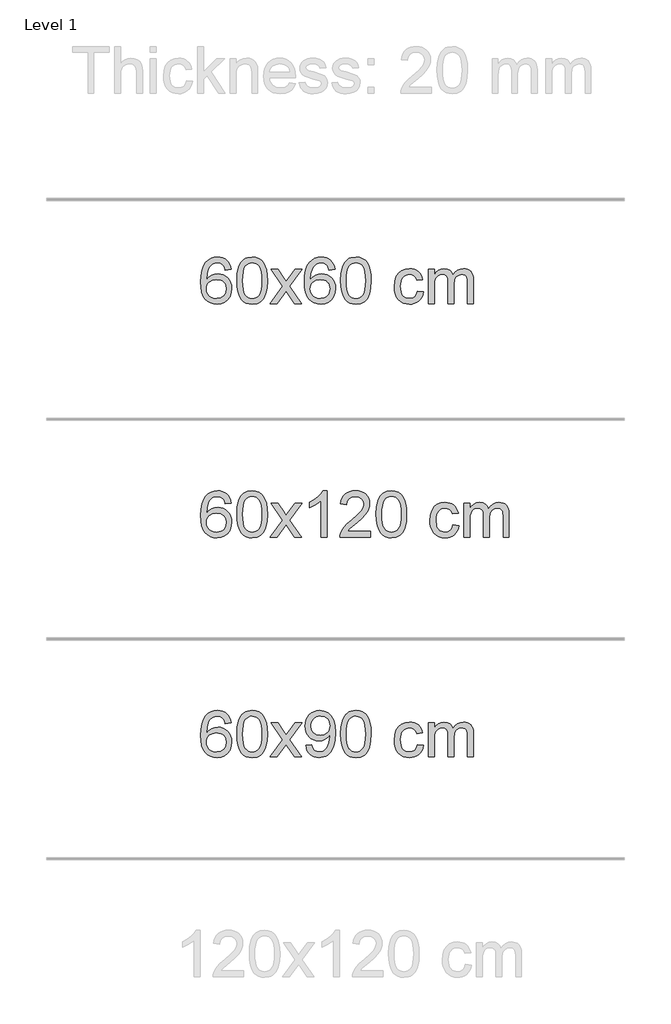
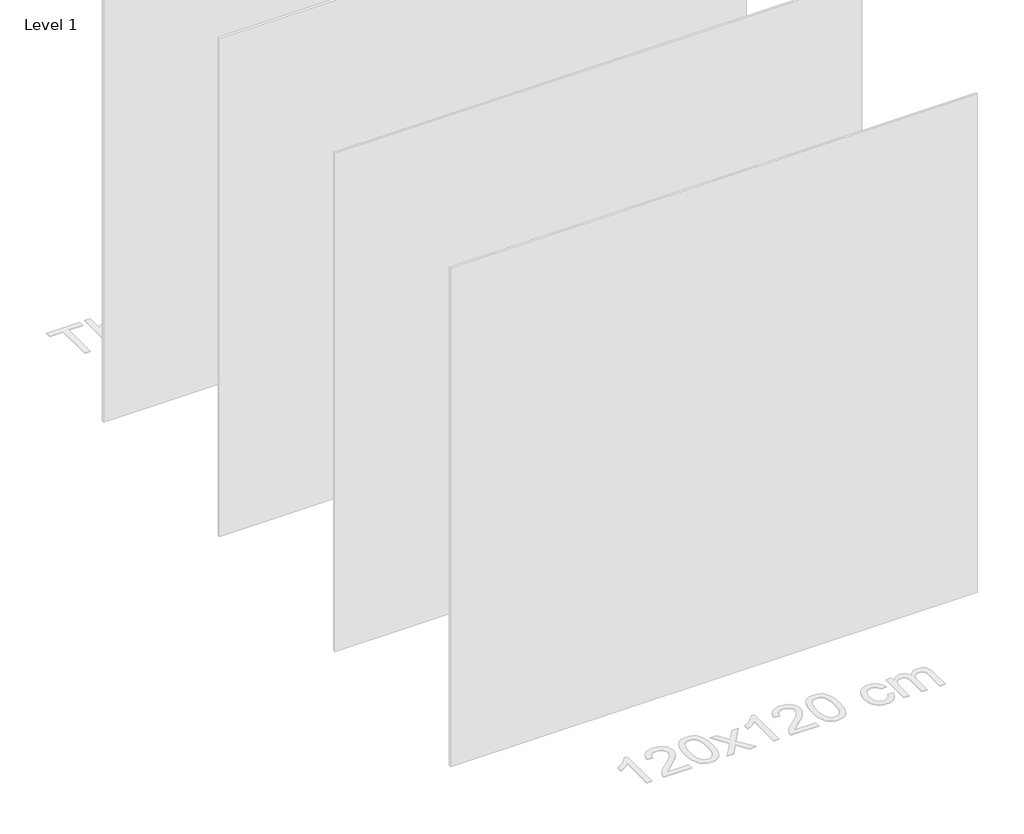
# One storey, part 5 of 7: 3 proxies.
"""IFC4 building model written with IfcOpenShell, lengths in millimetres."""

from ifc_helpers import new_model, si_unit, origin, origin_with_axes, place, context, project, spatial, polyline, outline, extrude, element, save

model = new_model("IFC4")

# Units and contexts
model_context = context("Model", 3, world=origin())
ifc_project = project(units=[si_unit("LENGTHUNIT", "METRE", prefix="MILLI")], contexts=[model_context])

# Site, building, storey
site = spatial("IfcSite", under=ifc_project)
building = spatial("IfcBuilding", under=site)
storey = spatial("IfcBuildingStorey", under=building, Name="Level 1", Elevation=0.0)

# Proxies
placement = place(None, origin())
element("IfcBuildingElementProxy", 1, Name="400mm Arial", ObjectType="400mm Arial", at=placement, inside=storey, context=model_context, shape_type="SweptSolid", body=[
    extrude(outline(polyline([(-846.8810506, 10100.1981534), (-897.1092056, 10093.919634), (-905.2026095, 10118.8129823), (-916.1409675, 10135.8091305), (-938.9251257, 10151.4809035), (-966.4672245, 10156.7048278), (-989.8154684, 10153.66367), (-1011.7902863, 10144.5401965), (-1030.6626326, 10125.3244936), (-1046.0768882, 10098.8737782), (-1056.4879487, 10061.4601793), (-1060.3507096, 10009.355826), (-1040.203039, 10032.8634855), (-1016.0577174, 10049.430438), (-989.2636454, 10059.2528873), (-961.1697237, 10062.5270371), (-937.0366648, 10060.2890883), (-914.7675414, 10053.5752418), (-894.3623534, 10042.3854978), (-875.8211008, 10026.7198562), (-860.4129766, 10007.5102847), (-849.4071736, 9985.688751), (-842.8036918, 9961.2552552), (-840.6025312, 9934.2097971), (-844.747335, 9898.2432008), (-857.1817464, 9864.9008293), (-876.8756959, 9836.6229666), (-902.7991138, 9815.8498966), (-933.7747778, 9803.0843913), (-968.6254655, 9798.8292229), (-998.5679942, 9801.6496516), (-1025.6103865, 9810.1109374), (-1049.7526425, 9824.2130806), (-1070.994762, 9843.956081), (-1088.3128069, 9870.1738045), (-1100.682839, 9903.700117), (-1108.1048583, 9944.5350185), (-1110.5788647, 9992.6785089), (-1107.8320125, 10046.652929), (-1099.5914558, 10092.7178861), (-1085.8571946, 10130.8733804), (-1066.629229, 10161.1194118), (-1045.788714, 10181.1628491), (-1021.6249983, 10195.4795901), (-994.1380819, 10204.0696347), (-963.3279648, 10206.9329829), (-940.1943186, 10205.161018), (-919.2557017, 10199.8451231), (-900.5121141, 10190.9852984), (-883.9635557, 10178.5815438), (-870.0576162, 10163.0507922), (-859.2418856, 10144.8099767), (-851.5163637, 10123.859097), (-846.8810506, 10100.1981534)]), holes=[polyline([(-1060.3507096, 9934.9946121), (-1057.4444419, 9912.7377514), (-1048.7256386, 9891.4864348), (-1035.1875812, 9873.2149623), (-1017.823551, 9859.8976341), (-996.86654, 9851.767442), (-972.5495401, 9849.057378), (-939.4033723, 9854.6737098), (-925.4882359, 9861.6941245), (-913.3450643, 9871.5227052), (-903.4950239, 9883.7609129), (-896.4592808, 9898.0102088), (-890.8306862, 9932.5420654), (-896.3857044, 9965.6882332), (-903.329477, 9979.3090641), (-913.0507588, 9990.9617263), (-925.2307185, 10000.2967319), (-939.5505251, 10006.9645931), (-974.6096793, 10012.298882), (-1007.7067961, 10006.9645931), (-1035.3837849, 9990.9617263), (-1046.3068145, 9979.4623482), (-1054.1089784, 9966.3013699), (-1058.7902768, 9951.4787911), (-1060.3507096, 9934.9946121)])]), origin_with_axes(), (0.0, 0.0, 1.0), 5.0),
    extrude(outline(polyline([(-796.6528955, 10002.783001), (-792.9618128, 10067.1010365), (-781.8885647, 10118.3960494), (-763.5435159, 10157.4528546), (-751.6854529, 10172.6862348), (-738.0370309, 10185.0562669), (-722.5522646, 10194.6273302), (-705.1851687, 10201.4638039), (-664.8039884, 10206.9329829), (-633.8528499, 10203.6956213), (-606.1390729, 10193.9835367), (-582.9625072, 10178.1768736), (-565.6230025, 10156.6557769), (-552.5264035, 10129.6041875), (-542.0785548, 10097.2060465), (-535.2359497, 10056.0645767), (-532.9550813, 10002.783001), (-536.6093758, 9938.8328476), (-547.5722593, 9887.660462), (-565.8069435, 9848.5668687), (-577.6374153, 9833.2875031), (-591.2766403, 9820.8530917), (-606.7798007, 9811.2176491), (-624.2020789, 9804.3351901), (-664.8039884, 9798.8292229), (-692.4687144, 9801.2204559), (-716.9941808, 9808.3941548), (-738.3803874, 9820.3503196), (-756.6273344, 9837.0889504), (-774.1385174, 9867.3472445), (-786.6465052, 9905.0490177), (-794.1512979, 9950.1942698), (-796.6528955, 10002.783001)]), holes=[polyline([(-746.4247404, 10002.8811029), (-744.9532124, 9959.2165758), (-740.5386285, 9923.8723131), (-733.1809886, 9896.8483149), (-722.8802927, 9878.1445811), (-710.4213558, 9865.4189297), (-696.5889928, 9856.3291788), (-681.3832037, 9850.8753282), (-664.8039884, 9849.057378), (-648.2247732, 9850.8814596), (-633.018984, 9856.3537042), (-619.186621, 9865.474112), (-606.7276841, 9878.2426829), (-596.4269882, 9896.9770736), (-589.0693483, 9923.9949404), (-584.6547644, 9959.2962835), (-583.1832364, 10002.8811029), (-584.6057135, 10045.3898675), (-588.8731446, 10080.1117964), (-595.9855298, 10107.0468898), (-605.9428692, 10126.1951477), (-618.1933396, 10139.5431328), (-632.1851182, 10149.0774078), (-647.9182048, 10154.7979728), (-665.3925996, 10156.7048278), (-681.8859757, 10155.0248334), (-696.8342475, 10149.9848501), (-710.2374148, 10141.5848778), (-722.0954778, 10129.8249167), (-732.7395302, 10108.9782703), (-740.3424247, 10080.8720859), (-744.9041615, 10045.5063634), (-746.4247404, 10002.8811029)])]), origin_with_axes(), (0.0, 0.0, 1.0), 5.0),
    extrude(outline(polyline([(-507.8410038, 9805.1077423), (-400.5175631, 9953.5358646), (-501.5624844, 10100.1981534), (-441.3279391, 10100.1981534), (-392.571312, 10029.4667084), (-369.7135773, 9996.2101761), (-349.8970005, 10023.4824946), (-294.3713447, 10100.1981534), (-233.9405957, 10100.1981534), (-340.086814, 9953.4377628), (-237.8646703, 9805.1077423), (-298.1973175, 9805.1077423), (-359.8052889, 9894.3804398), (-370.9889016, 9910.7634513), (-447.4102547, 9805.1077423), (-507.8410038, 9805.1077423)])), origin_with_axes(), (0.0, 0.0, 1.0), 5.0),
    extrude(outline(polyline([(50.9472214, 10100.1981534), (0.7190663, 10093.919634), (-7.3743376, 10118.8129823), (-18.3126955, 10135.8091305), (-41.0968538, 10151.4809035), (-68.6389525, 10156.7048278), (-91.9871964, 10153.66367), (-113.9620143, 10144.5401965), (-132.8343606, 10125.3244936), (-148.2486162, 10098.8737782), (-158.6596767, 10061.4601793), (-162.5224377, 10009.355826), (-142.3747671, 10032.8634855), (-118.2294454, 10049.430438), (-91.4353735, 10059.2528873), (-63.3414518, 10062.5270371), (-39.2083929, 10060.2890883), (-16.9392694, 10053.5752418), (3.4659186, 10042.3854978), (22.0071711, 10026.7198562), (37.4152954, 10007.5102847), (48.4210984, 9985.688751), (55.0245802, 9961.2552552), (57.2257408, 9934.2097971), (53.080937, 9898.2432008), (40.6465255, 9864.9008293), (20.9525761, 9836.6229666), (-4.9708419, 9815.8498966), (-35.9465059, 9803.0843913), (-70.7971935, 9798.8292229), (-100.7397223, 9801.6496516), (-127.7821146, 9810.1109374), (-151.9243705, 9824.2130806), (-173.1664901, 9843.956081), (-190.484535, 9870.1738045), (-202.8545671, 9903.700117), (-210.2765863, 9944.5350185), (-212.7505927, 9992.6785089), (-210.0037405, 10046.652929), (-201.7631838, 10092.7178861), (-188.0289227, 10130.8733804), (-168.800957, 10161.1194118), (-147.960442, 10181.1628491), (-123.7967263, 10195.4795901), (-96.3098099, 10204.0696347), (-65.4996928, 10206.9329829), (-42.3660467, 10205.161018), (-21.4274298, 10199.8451231), (-2.6838421, 10190.9852984), (13.8647163, 10178.5815438), (27.7706557, 10163.0507922), (38.5863864, 10144.8099767), (46.3119083, 10123.859097), (50.9472214, 10100.1981534)]), holes=[polyline([(-162.5224377, 9934.9946121), (-159.6161699, 9912.7377514), (-150.8973666, 9891.4864348), (-137.3593092, 9873.2149623), (-119.995279, 9859.8976341), (-99.038268, 9851.767442), (-74.7212681, 9849.057378), (-41.5751004, 9854.6737098), (-27.6599639, 9861.6941245), (-15.5167924, 9871.5227052), (-5.666752, 9883.7609129), (1.3689912, 9898.0102088), (6.9975857, 9932.5420654), (1.4425676, 9965.6882332), (-5.5012051, 9979.3090641), (-15.2224868, 9990.9617263), (-27.4024465, 10000.2967319), (-41.7222532, 10006.9645931), (-76.7814073, 10012.298882), (-109.8785241, 10006.9645931), (-137.5555129, 9990.9617263), (-148.4785425, 9979.4623482), (-156.2807065, 9966.3013699), (-160.9620049, 9951.4787911), (-162.5224377, 9934.9946121)])]), origin_with_axes(), (0.0, 0.0, 1.0), 5.0),
    extrude(outline(polyline([(101.1753765, 10002.783001), (104.8664592, 10067.1010365), (115.9397072, 10118.3960494), (134.2847561, 10157.4528546), (146.142819, 10172.6862348), (159.791241, 10185.0562669), (175.2760074, 10194.6273302), (192.6431032, 10201.4638039), (233.0242836, 10206.9329829), (263.9754221, 10203.6956213), (291.6891991, 10193.9835367), (314.8657647, 10178.1768736), (332.2052695, 10156.6557769), (345.3018685, 10129.6041875), (355.7497171, 10097.2060465), (362.5923223, 10056.0645767), (364.8731906, 10002.783001), (361.2188961, 9938.8328476), (350.2560127, 9887.660462), (332.0213285, 9848.5668687), (320.1908566, 9833.2875031), (306.5516317, 9820.8530917), (291.0484712, 9811.2176491), (273.6261931, 9804.3351901), (233.0242836, 9798.8292229), (205.3595575, 9801.2204559), (180.8340912, 9808.3941548), (159.4478845, 9820.3503196), (141.2009376, 9837.0889504), (123.6897546, 9867.3472445), (111.1817668, 9905.0490177), (103.6769741, 9950.1942698), (101.1753765, 10002.783001)]), holes=[polyline([(151.4035316, 10002.8811029), (152.8750595, 9959.2165758), (157.2896435, 9923.8723131), (164.6472834, 9896.8483149), (174.9479793, 9878.1445811), (187.4069162, 9865.4189297), (201.2392792, 9856.3291788), (216.4450683, 9850.8753282), (233.0242836, 9849.057378), (249.6034988, 9850.8814596), (264.8092879, 9856.3537042), (278.641651, 9865.474112), (291.1005879, 9878.2426829), (301.4012837, 9896.9770736), (308.7589236, 9923.9949404), (313.1735076, 9959.2962835), (314.6450356, 10002.8811029), (313.2225585, 10045.3898675), (308.9551274, 10080.1117964), (301.8427421, 10107.0468898), (291.8854028, 10126.1951477), (279.6349323, 10139.5431328), (265.6431538, 10149.0774078), (249.9100671, 10154.7979728), (232.4356724, 10156.7048278), (215.9422962, 10155.0248334), (200.9940245, 10149.9848501), (187.5908572, 10141.5848778), (175.7327942, 10129.8249167), (165.0887418, 10108.9782703), (157.4858472, 10080.8720859), (152.9241105, 10045.5063634), (151.4035316, 10002.8811029)])]), origin_with_axes(), (0.0, 0.0, 1.0), 5.0),
    extrude(outline(polyline([(766.6984312, 9911.8425718), (816.9265863, 9905.5640525), (811.4635387, 9881.8632549), (802.922545, 9860.8909155), (791.3036053, 9842.6470342), (776.6067196, 9827.1316111), (759.4511559, 9814.7493163), (740.4561822, 9805.90482), (719.6217986, 9800.5981222), (696.9480049, 9798.8292229), (668.7774412, 9801.297098), (643.5192765, 9808.7007231), (621.173511, 9821.0400984), (601.7401446, 9838.3152237), (586.0101236, 9860.2011368), (574.7743943, 9886.372875), (568.0329568, 9916.8304386), (565.7858109, 9951.5738273), (569.6240464, 9996.2714897), (581.1387529, 10035.0094638), (600.5138713, 10066.2916961), (627.9333426, 10088.6221333), (660.7361539, 10102.0130379), (696.2612919, 10106.4766728), (718.5457437, 10104.9438311), (738.7026114, 10100.3453062), (756.7318948, 10092.6810979), (772.6335941, 10081.9512064), (786.137929, 10068.4008863), (796.9751194, 10052.2753921), (805.1451654, 10033.574724), (810.6480669, 10012.298882), (760.4199118, 10006.0203626), (751.3087011, 10027.9338668), (737.1207188, 10043.642428), (718.6407799, 10053.0969953), (696.6536993, 10056.2485177), (679.5870405, 10054.6972819), (664.1942446, 10050.0435747), (650.4753119, 10042.287396), (638.4302422, 10031.4287457), (628.6231214, 10017.216238), (621.6180351, 9999.3984867), (617.4149833, 9977.9754918), (616.013966, 9952.9472534), (621.4954077, 9905.8706208), (628.3472099, 9887.9333078), (637.9397329, 9873.7299971), (649.7456793, 9862.9357263), (663.2377514, 9855.2255328), (678.4159494, 9850.5994167), (695.2802732, 9849.057378), (721.2895303, 9852.9078762), (742.6144233, 9864.4593709), (758.1267807, 9884.0061675), (766.6984312, 9911.8425718)])), origin_with_axes(), (0.0, 0.0, 1.0), 5.0),
    extrude(outline(polyline([(860.876222, 9805.1077423), (860.876222, 10100.1981534), (911.1043771, 10100.1981534), (911.1043771, 10051.63773), (926.2120643, 10073.9436416), (945.6362337, 10091.4180364), (968.7146975, 10102.7120137), (994.7852682, 10106.4766728), (1022.7197744, 10102.6384373), (1045.1115252, 10091.1237308), (1061.8378932, 10072.6928429), (1072.7762512, 10048.1060629), (1091.0845118, 10073.6432047), (1111.9679464, 10091.8840203), (1135.426555, 10102.8285096), (1161.4603375, 10106.4766728), (1181.5681542, 10104.9591595), (1199.217293, 10100.4066198), (1214.4077537, 10092.8190537), (1227.1395364, 10082.1964611), (1237.2041746, 10068.4162147), (1244.393202, 10051.3556871), (1248.7066184, 10031.0148785), (1250.1444238, 10007.3937887), (1250.1444238, 9805.1077423), (1199.9162687, 9805.1077423), (1199.9162687, 9985.8113783), (1198.7513091, 10010.8641422), (1195.2564301, 10027.7499258), (1188.7081306, 10039.3136832), (1178.3829093, 10048.4003684), (1165.1023693, 10054.2864804), (1149.6881137, 10056.2485177), (1122.4771088, 10051.2207971), (1100.2938245, 10036.1376353), (1091.6884514, 10024.5677465), (1085.5417564, 10009.9689627), (1080.6244004, 9971.6847097), (1080.6244004, 9805.1077423), (1030.3962454, 9805.1077423), (1030.3962454, 9991.4031847), (1027.4899776, 10019.8036747), (1018.7711743, 10040.0617099), (1003.4304951, 10052.2018157), (980.6585996, 10056.2485177), (961.3080067, 10053.5507164), (943.4779926, 10045.4573125), (928.7627128, 10032.1645097), (918.7563226, 10013.8685118), (913.0173634, 9988.4846542), (911.1043771, 9953.9282721), (911.1043771, 9805.1077423), (860.876222, 9805.1077423)])), origin_with_axes(), (0.0, 0.0, 1.0), 5.0),
])
element("IfcBuildingElementProxy", 2, Name="400mm Arial", ObjectType="400mm Arial", at=placement, inside=storey, context=model_context, shape_type="SweptSolid", body=[
    extrude(outline(polyline([(-846.8810506, 8080.1981534), (-897.1092056, 8073.919634), (-905.2026095, 8098.8129823), (-916.1409675, 8115.8091305), (-938.9251257, 8131.4809035), (-966.4672245, 8136.7048278), (-989.8154684, 8133.66367), (-1011.7902863, 8124.5401965), (-1030.6626326, 8105.3244936), (-1046.0768882, 8078.8737782), (-1056.4879487, 8041.4601793), (-1060.3507096, 7989.355826), (-1040.203039, 8012.8634855), (-1016.0577174, 8029.430438), (-989.2636454, 8039.2528873), (-961.1697237, 8042.5270371), (-937.0366648, 8040.2890883), (-914.7675414, 8033.5752418), (-894.3623534, 8022.3854978), (-875.8211008, 8006.7198562), (-860.4129766, 7987.5102847), (-849.4071736, 7965.688751), (-842.8036918, 7941.2552552), (-840.6025312, 7914.2097971), (-844.747335, 7878.2432008), (-857.1817464, 7844.9008293), (-876.8756959, 7816.6229666), (-902.7991138, 7795.8498966), (-933.7747778, 7783.0843913), (-968.6254655, 7778.8292229), (-998.5679942, 7781.6496516), (-1025.6103865, 7790.1109374), (-1049.7526425, 7804.2130806), (-1070.994762, 7823.956081), (-1088.3128069, 7850.1738045), (-1100.682839, 7883.700117), (-1108.1048583, 7924.5350185), (-1110.5788647, 7972.6785089), (-1107.8320125, 8026.652929), (-1099.5914558, 8072.7178861), (-1085.8571946, 8110.8733804), (-1066.629229, 8141.1194118), (-1045.788714, 8161.1628491), (-1021.6249983, 8175.4795901), (-994.1380819, 8184.0696347), (-963.3279648, 8186.9329829), (-940.1943186, 8185.161018), (-919.2557017, 8179.8451231), (-900.5121141, 8170.9852984), (-883.9635557, 8158.5815438), (-870.0576162, 8143.0507922), (-859.2418856, 8124.8099767), (-851.5163637, 8103.859097), (-846.8810506, 8080.1981534)]), holes=[polyline([(-1060.3507096, 7914.9946121), (-1057.4444419, 7892.7377514), (-1048.7256386, 7871.4864348), (-1035.1875812, 7853.2149623), (-1017.823551, 7839.8976341), (-996.86654, 7831.767442), (-972.5495401, 7829.057378), (-939.4033723, 7834.6737098), (-925.4882359, 7841.6941245), (-913.3450643, 7851.5227052), (-903.4950239, 7863.7609129), (-896.4592808, 7878.0102088), (-890.8306862, 7912.5420654), (-896.3857044, 7945.6882332), (-903.329477, 7959.3090641), (-913.0507588, 7970.9617263), (-925.2307185, 7980.2967319), (-939.5505251, 7986.9645931), (-974.6096793, 7992.298882), (-1007.7067961, 7986.9645931), (-1035.3837849, 7970.9617263), (-1046.3068145, 7959.4623482), (-1054.1089784, 7946.3013699), (-1058.7902768, 7931.4787911), (-1060.3507096, 7914.9946121)])]), origin_with_axes(), (0.0, 0.0, 1.0), 5.0),
    extrude(outline(polyline([(-796.6528955, 7982.783001), (-792.9618128, 8047.1010365), (-781.8885647, 8098.3960494), (-763.5435159, 8137.4528546), (-751.6854529, 8152.6862348), (-738.0370309, 8165.0562669), (-722.5522646, 8174.6273302), (-705.1851687, 8181.4638039), (-664.8039884, 8186.9329829), (-633.8528499, 8183.6956213), (-606.1390729, 8173.9835367), (-582.9625072, 8158.1768736), (-565.6230025, 8136.6557769), (-552.5264035, 8109.6041875), (-542.0785548, 8077.2060465), (-535.2359497, 8036.0645767), (-532.9550813, 7982.783001), (-536.6093758, 7918.8328476), (-547.5722593, 7867.660462), (-565.8069435, 7828.5668687), (-577.6374153, 7813.2875031), (-591.2766403, 7800.8530917), (-606.7798007, 7791.2176491), (-624.2020789, 7784.3351901), (-664.8039884, 7778.8292229), (-692.4687144, 7781.2204559), (-716.9941808, 7788.3941548), (-738.3803874, 7800.3503196), (-756.6273344, 7817.0889504), (-774.1385174, 7847.3472445), (-786.6465052, 7885.0490177), (-794.1512979, 7930.1942698), (-796.6528955, 7982.783001)]), holes=[polyline([(-746.4247404, 7982.8811029), (-744.9532124, 7939.2165758), (-740.5386285, 7903.8723131), (-733.1809886, 7876.8483149), (-722.8802927, 7858.1445811), (-710.4213558, 7845.4189297), (-696.5889928, 7836.3291788), (-681.3832037, 7830.8753282), (-664.8039884, 7829.057378), (-648.2247732, 7830.8814596), (-633.018984, 7836.3537042), (-619.186621, 7845.474112), (-606.7276841, 7858.2426829), (-596.4269882, 7876.9770736), (-589.0693483, 7903.9949404), (-584.6547644, 7939.2962835), (-583.1832364, 7982.8811029), (-584.6057135, 8025.3898675), (-588.8731446, 8060.1117964), (-595.9855298, 8087.0468898), (-605.9428692, 8106.1951477), (-618.1933396, 8119.5431328), (-632.1851182, 8129.0774078), (-647.9182048, 8134.7979728), (-665.3925996, 8136.7048278), (-681.8859757, 8135.0248334), (-696.8342475, 8129.9848501), (-710.2374148, 8121.5848778), (-722.0954778, 8109.8249167), (-732.7395302, 8088.9782703), (-740.3424247, 8060.8720859), (-744.9041615, 8025.5063634), (-746.4247404, 7982.8811029)])]), origin_with_axes(), (0.0, 0.0, 1.0), 5.0),
    extrude(outline(polyline([(-507.8410038, 7785.1077423), (-400.5175631, 7933.5358646), (-501.5624844, 8080.1981534), (-441.3279391, 8080.1981534), (-392.571312, 8009.4667084), (-369.7135773, 7976.2101761), (-349.8970005, 8003.4824946), (-294.3713447, 8080.1981534), (-233.9405957, 8080.1981534), (-340.086814, 7933.4377628), (-237.8646703, 7785.1077423), (-298.1973175, 7785.1077423), (-359.8052889, 7874.3804398), (-370.9889016, 7890.7634513), (-447.4102547, 7785.1077423), (-507.8410038, 7785.1077423)])), origin_with_axes(), (0.0, 0.0, 1.0), 5.0),
    extrude(outline(polyline([(-18.1164918, 7785.1077423), (-68.3446469, 7785.1077423), (-68.3446469, 8098.2488966), (-89.3139206, 8081.2895366), (-115.9240516, 8064.3547021), (-168.800957, 8038.9953699), (-168.800957, 8086.4766728), (-129.3517444, 8107.9364558), (-95.1755071, 8133.4674663), (-68.2342823, 8160.6171575), (-50.4901074, 8186.9329829), (-18.1164918, 8186.9329829), (-18.1164918, 7785.1077423)])), origin_with_axes(), (0.0, 0.0, 1.0), 5.0),
    extrude(outline(polyline([(358.5946712, 7835.3358974), (358.5946712, 7785.1077423), (94.8968571, 7785.1077423), (96.0005031, 7802.7906035), (100.2924597, 7819.7377008), (112.6900829, 7846.8015529), (130.8511908, 7873.0560646), (157.1057025, 7900.5368497), (193.7835374, 7931.2795217), (247.9725553, 7979.4230122), (280.4565355, 8014.9604129), (296.6801315, 8043.8023613), (302.0879968, 8071.8594948), (296.9744371, 8097.0103605), (281.6337579, 8117.9183206), (258.052522, 8132.008201), (228.2172922, 8136.7048278), (196.8860089, 8132.1185656), (172.5444835, 8118.359779), (156.8359224, 8096.5075885), (151.4035316, 8067.6411146), (101.1753765, 8073.919634), (105.4949242, 8099.8491833), (113.3522705, 8122.5045828), (124.7474153, 8141.8858326), (139.6803586, 8157.9929326), (157.807744, 8170.6542046), (178.7862147, 8179.6979703), (202.615771, 8185.1242298), (229.2964127, 8186.9329829), (256.2161777, 8184.9218947), (280.1744926, 8178.8886299), (301.1713575, 8168.8331887), (319.2067723, 8154.7555711), (333.6921259, 8137.6981092), (344.038807, 8118.7031355), (350.2468156, 8097.77065), (352.3161519, 8074.9006526), (350.0843344, 8050.8779584), (343.3888821, 8027.272197), (331.5062937, 8003.2617654), (313.7130678, 7978.0250606), (285.349366, 7947.8955252), (241.7553496, 7909.206602), (183.9733509, 7860.8914333), (161.31182, 7835.3358974), (358.5946712, 7835.3358974)])), origin_with_axes(), (0.0, 0.0, 1.0), 5.0),
    extrude(outline(polyline([(408.8228263, 7982.783001), (412.513909, 8047.1010365), (423.5871571, 8098.3960494), (441.9322059, 8137.4528546), (453.7902689, 8152.6862348), (467.4386909, 8165.0562669), (482.9234572, 8174.6273302), (500.2905531, 8181.4638039), (540.6717334, 8186.9329829), (571.6228719, 8183.6956213), (599.3366489, 8173.9835367), (622.5132146, 8158.1768736), (639.8527193, 8136.6557769), (652.9493183, 8109.6041875), (663.397167, 8077.2060465), (670.2397721, 8036.0645767), (672.5206405, 7982.783001), (668.866346, 7918.8328476), (657.9034625, 7867.660462), (639.6687783, 7828.5668687), (627.8383065, 7813.2875031), (614.1990815, 7800.8530917), (598.6959211, 7791.2176491), (581.2736429, 7784.3351901), (540.6717334, 7778.8292229), (513.0070074, 7781.2204559), (488.481541, 7788.3941548), (467.0953344, 7800.3503196), (448.8483874, 7817.0889504), (431.3372044, 7847.3472445), (418.8292166, 7885.0490177), (411.3244239, 7930.1942698), (408.8228263, 7982.783001)]), holes=[polyline([(459.0509814, 7982.8811029), (460.5225094, 7939.2165758), (464.9370933, 7903.8723131), (472.2947332, 7876.8483149), (482.5954291, 7858.1445811), (495.054366, 7845.4189297), (508.886729, 7836.3291788), (524.0925181, 7830.8753282), (540.6717334, 7829.057378), (557.2509486, 7830.8814596), (572.4567378, 7836.3537042), (586.2891008, 7845.474112), (598.7480377, 7858.2426829), (609.0487336, 7876.9770736), (616.4063735, 7903.9949404), (620.8209574, 7939.2962835), (622.2924854, 7982.8811029), (620.8700083, 8025.3898675), (616.6025772, 8060.1117964), (609.490192, 8087.0468898), (599.5328526, 8106.1951477), (587.2823822, 8119.5431328), (573.2906036, 8129.0774078), (557.557517, 8134.7979728), (540.0831222, 8136.7048278), (523.5897461, 8135.0248334), (508.6414743, 8129.9848501), (495.238307, 8121.5848778), (483.380244, 8109.8249167), (472.7361916, 8088.9782703), (465.133297, 8060.8720859), (460.5715603, 8025.5063634), (459.0509814, 7982.8811029)])]), origin_with_axes(), (0.0, 0.0, 1.0), 5.0),
    extrude(outline(polyline([(1074.3458811, 7891.8425718), (1124.5740361, 7885.5640525), (1119.1109885, 7861.8632549), (1110.5699949, 7840.8909155), (1098.9510552, 7822.6470342), (1084.2541695, 7807.1316111), (1067.0986058, 7794.7493163), (1048.1036321, 7785.90482), (1027.2692484, 7780.5981222), (1004.5954548, 7778.8292229), (976.424891, 7781.297098), (951.1667263, 7788.7007231), (928.8209608, 7801.0400984), (909.3875944, 7818.3152237), (893.6575734, 7840.2011368), (882.4218442, 7866.372875), (875.6804066, 7896.8304386), (873.4332608, 7931.5738273), (877.2714962, 7976.2714897), (888.7862027, 8015.0094638), (908.1613211, 8046.2916961), (935.5807925, 8068.6221333), (968.3836037, 8082.0130379), (1003.9087417, 8086.4766728), (1026.1931936, 8084.9438311), (1046.3500612, 8080.3453062), (1064.3793447, 8072.6810979), (1080.2810439, 8061.9512064), (1093.7853788, 8048.4008863), (1104.6225693, 8032.2753921), (1112.7926152, 8013.574724), (1118.2955167, 7992.298882), (1068.0673617, 7986.0203626), (1058.9561509, 8007.9338668), (1044.7681686, 8023.642428), (1026.2882298, 8033.0969953), (1004.3011492, 8036.2485177), (987.2344903, 8034.6972819), (971.8416945, 8030.0435747), (958.1227617, 8022.287396), (946.0776921, 8011.4287457), (936.2705712, 7997.216238), (929.2654849, 7979.3984867), (925.0624331, 7957.9754918), (923.6614158, 7932.9472534), (929.1428576, 7885.8706208), (935.9946597, 7867.9333078), (945.5871827, 7853.7299971), (957.3931291, 7842.9357263), (970.8852013, 7835.2255328), (986.0633993, 7830.5994167), (1002.9277231, 7829.057378), (1028.9369801, 7832.9078762), (1050.2618731, 7844.4593709), (1065.7742306, 7864.0061675), (1074.3458811, 7891.8425718)])), origin_with_axes(), (0.0, 0.0, 1.0), 5.0),
    extrude(outline(polyline([(1168.5236718, 7785.1077423), (1168.5236718, 8080.1981534), (1218.7518269, 8080.1981534), (1218.7518269, 8031.63773), (1233.8595142, 8053.9436416), (1253.2836835, 8071.4180364), (1276.3621473, 8082.7120137), (1302.4327181, 8086.4766728), (1330.3672242, 8082.6384373), (1352.758975, 8071.1237308), (1369.4853431, 8052.6928429), (1380.423701, 8028.1060629), (1398.7319617, 8053.6432047), (1419.6153963, 8071.8840203), (1443.0740048, 8082.8285096), (1469.1077873, 8086.4766728), (1489.2156041, 8084.9591595), (1506.8647428, 8080.4066198), (1522.0552035, 8072.8190537), (1534.7869862, 8062.1964611), (1544.8516245, 8048.4162147), (1552.0406518, 8031.3556871), (1556.3540682, 8011.0148785), (1557.7918737, 7987.3937887), (1557.7918737, 7785.1077423), (1507.5637186, 7785.1077423), (1507.5637186, 7965.8113783), (1506.3987589, 7990.8641422), (1502.90388, 8007.7499258), (1496.3555805, 8019.3136832), (1486.0303591, 8028.4003684), (1472.7498191, 8034.2864804), (1457.3355635, 8036.2485177), (1430.1245586, 8031.2207971), (1407.9412743, 8016.1376353), (1399.3359013, 8004.5677465), (1393.1892063, 7989.9689627), (1388.2718503, 7951.6847097), (1388.2718503, 7785.1077423), (1338.0436952, 7785.1077423), (1338.0436952, 7971.4031847), (1335.1374274, 7999.8036747), (1326.4186242, 8020.0617099), (1311.077945, 8032.2018157), (1288.3060495, 8036.2485177), (1268.9554565, 8033.5507164), (1251.1254425, 8025.4573125), (1236.4101627, 8012.1645097), (1226.4037724, 7993.8685118), (1220.6648133, 7968.4846542), (1218.7518269, 7933.9282721), (1218.7518269, 7785.1077423), (1168.5236718, 7785.1077423)])), origin_with_axes(), (0.0, 0.0, 1.0), 5.0),
])
element("IfcBuildingElementProxy", 3, Name="400mm Arial", ObjectType="400mm Arial", at=placement, inside=storey, context=model_context, shape_type="SweptSolid", body=[
    extrude(outline(polyline([(-846.8810506, 6180.1981534), (-897.1092056, 6173.919634), (-905.2026095, 6198.8129823), (-916.1409675, 6215.8091305), (-938.9251257, 6231.4809035), (-966.4672245, 6236.7048278), (-989.8154684, 6233.66367), (-1011.7902863, 6224.5401965), (-1030.6626326, 6205.3244936), (-1046.0768882, 6178.8737782), (-1056.4879487, 6141.4601793), (-1060.3507096, 6089.355826), (-1040.203039, 6112.8634855), (-1016.0577174, 6129.430438), (-989.2636454, 6139.2528873), (-961.1697237, 6142.5270371), (-937.0366648, 6140.2890883), (-914.7675414, 6133.5752418), (-894.3623534, 6122.3854978), (-875.8211008, 6106.7198562), (-860.4129766, 6087.5102847), (-849.4071736, 6065.688751), (-842.8036918, 6041.2552552), (-840.6025312, 6014.2097971), (-844.747335, 5978.2432008), (-857.1817464, 5944.9008293), (-876.8756959, 5916.6229666), (-902.7991138, 5895.8498966), (-933.7747778, 5883.0843913), (-968.6254655, 5878.8292229), (-998.5679942, 5881.6496516), (-1025.6103865, 5890.1109374), (-1049.7526425, 5904.2130806), (-1070.994762, 5923.956081), (-1088.3128069, 5950.1738045), (-1100.682839, 5983.700117), (-1108.1048583, 6024.5350185), (-1110.5788647, 6072.6785089), (-1107.8320125, 6126.652929), (-1099.5914558, 6172.7178861), (-1085.8571946, 6210.8733804), (-1066.629229, 6241.1194118), (-1045.788714, 6261.1628491), (-1021.6249983, 6275.4795901), (-994.1380819, 6284.0696347), (-963.3279648, 6286.9329829), (-940.1943186, 6285.161018), (-919.2557017, 6279.8451231), (-900.5121141, 6270.9852984), (-883.9635557, 6258.5815438), (-870.0576162, 6243.0507922), (-859.2418856, 6224.8099767), (-851.5163637, 6203.859097), (-846.8810506, 6180.1981534)]), holes=[polyline([(-1060.3507096, 6014.9946121), (-1057.4444419, 5992.7377514), (-1048.7256386, 5971.4864348), (-1035.1875812, 5953.2149623), (-1017.823551, 5939.8976341), (-996.86654, 5931.767442), (-972.5495401, 5929.057378), (-939.4033723, 5934.6737098), (-925.4882359, 5941.6941245), (-913.3450643, 5951.5227052), (-903.4950239, 5963.7609129), (-896.4592808, 5978.0102088), (-890.8306862, 6012.5420654), (-896.3857044, 6045.6882332), (-903.329477, 6059.3090641), (-913.0507588, 6070.9617263), (-925.2307185, 6080.2967319), (-939.5505251, 6086.9645931), (-974.6096793, 6092.298882), (-1007.7067961, 6086.9645931), (-1035.3837849, 6070.9617263), (-1046.3068145, 6059.4623482), (-1054.1089784, 6046.3013699), (-1058.7902768, 6031.4787911), (-1060.3507096, 6014.9946121)])]), origin_with_axes(), (0.0, 0.0, 1.0), 5.0),
    extrude(outline(polyline([(-796.6528955, 6082.783001), (-792.9618128, 6147.1010365), (-781.8885647, 6198.3960494), (-763.5435159, 6237.4528546), (-751.6854529, 6252.6862348), (-738.0370309, 6265.0562669), (-722.5522646, 6274.6273302), (-705.1851687, 6281.4638039), (-664.8039884, 6286.9329829), (-633.8528499, 6283.6956213), (-606.1390729, 6273.9835367), (-582.9625072, 6258.1768736), (-565.6230025, 6236.6557769), (-552.5264035, 6209.6041875), (-542.0785548, 6177.2060465), (-535.2359497, 6136.0645767), (-532.9550813, 6082.783001), (-536.6093758, 6018.8328476), (-547.5722593, 5967.660462), (-565.8069435, 5928.5668687), (-577.6374153, 5913.2875031), (-591.2766403, 5900.8530917), (-606.7798007, 5891.2176491), (-624.2020789, 5884.3351901), (-664.8039884, 5878.8292229), (-692.4687144, 5881.2204559), (-716.9941808, 5888.3941548), (-738.3803874, 5900.3503196), (-756.6273344, 5917.0889504), (-774.1385174, 5947.3472445), (-786.6465052, 5985.0490177), (-794.1512979, 6030.1942698), (-796.6528955, 6082.783001)]), holes=[polyline([(-746.4247404, 6082.8811029), (-744.9532124, 6039.2165758), (-740.5386285, 6003.8723131), (-733.1809886, 5976.8483149), (-722.8802927, 5958.1445811), (-710.4213558, 5945.4189297), (-696.5889928, 5936.3291788), (-681.3832037, 5930.8753282), (-664.8039884, 5929.057378), (-648.2247732, 5930.8814596), (-633.018984, 5936.3537042), (-619.186621, 5945.474112), (-606.7276841, 5958.2426829), (-596.4269882, 5976.9770736), (-589.0693483, 6003.9949404), (-584.6547644, 6039.2962835), (-583.1832364, 6082.8811029), (-584.6057135, 6125.3898675), (-588.8731446, 6160.1117964), (-595.9855298, 6187.0468898), (-605.9428692, 6206.1951477), (-618.1933396, 6219.5431328), (-632.1851182, 6229.0774078), (-647.9182048, 6234.7979728), (-665.3925996, 6236.7048278), (-681.8859757, 6235.0248334), (-696.8342475, 6229.9848501), (-710.2374148, 6221.5848778), (-722.0954778, 6209.8249167), (-732.7395302, 6188.9782703), (-740.3424247, 6160.8720859), (-744.9041615, 6125.5063634), (-746.4247404, 6082.8811029)])]), origin_with_axes(), (0.0, 0.0, 1.0), 5.0),
    extrude(outline(polyline([(-507.8410038, 5885.1077423), (-400.5175631, 6033.5358646), (-501.5624844, 6180.1981534), (-441.3279391, 6180.1981534), (-392.571312, 6109.4667084), (-369.7135773, 6076.2101761), (-349.8970005, 6103.4824946), (-294.3713447, 6180.1981534), (-233.9405957, 6180.1981534), (-340.086814, 6033.4377628), (-237.8646703, 5885.1077423), (-298.1973175, 5885.1077423), (-359.8052889, 5974.3804398), (-370.9889016, 5990.7634513), (-447.4102547, 5885.1077423), (-507.8410038, 5885.1077423)])), origin_with_axes(), (0.0, 0.0, 1.0), 5.0),
    extrude(outline(polyline([(-200.193554, 5985.5640525), (-149.9653989, 5991.8425718), (-141.3814857, 5963.3317172), (-127.4019699, 5943.9198106), (-108.370208, 5932.7729861), (-84.6295565, 5929.057378), (-63.329189, 5931.448611), (-43.9663333, 5938.6223099), (-27.8776274, 5949.7936598), (-16.3997092, 5964.1778458), (0.0323533, 6007.8331759), (5.4770068, 6036.2336659), (7.2918913, 6066.1056839), (6.9975857, 6075.9158705), (-10.4032327, 6054.6768166), (-33.1751282, 6037.8523467), (-59.6748945, 6026.8894632), (-88.2593256, 6023.2351688), (-112.1195386, 6025.4669862), (-134.060634, 6032.1624385), (-154.0826116, 6043.3215257), (-172.1854714, 6058.9442478), (-187.1858598, 6078.2151329), (-197.9004229, 6100.3187095), (-204.3291607, 6125.2549774), (-206.4720733, 6153.0239367), (-204.2249275, 6181.7187323), (-197.4834899, 6207.4704719), (-186.2477607, 6230.2791556), (-170.5177397, 6250.1447834), (-151.4032044, 6266.2396207), (-130.013932, 6277.735933), (-106.3499227, 6284.6337204), (-80.4111763, 6286.9329829), (-42.9485265, 6281.6845331), (-8.8458655, 6265.9391837), (19.6772518, 6240.4817496), (40.4012709, 6206.0970458), (53.0196233, 6158.5666921), (57.2257408, 6093.6723081), (53.031886, 6024.8661123), (40.4503218, 5971.6826385), (19.5914127, 5931.7183911), (6.0993405, 5915.7921664), (-9.4344767, 5902.5698743), (-26.6973394, 5892.1833393), (-45.3765477, 5884.7643858), (-86.9840013, 5878.8292229), (-109.541299, 5880.5797281), (-129.9280929, 5885.8312436), (-148.144383, 5894.5837694), (-164.1901694, 5906.8373055), (-177.6607818, 5922.2607581), (-188.15155, 5940.5230335), (-195.6624741, 5961.6241316), (-200.193554, 5985.5640525)]), holes=[polyline([(6.9975857, 6154.201159), (1.5774577, 6188.2425063), (-5.1977024, 6202.320124), (-14.6829265, 6214.4357044), (-26.4122308, 6224.1784459), (-39.9196314, 6231.137547), (-72.2687215, 6236.7048278), (-89.8780063, 6235.2057087), (-105.8195595, 6230.7083513), (-120.0933809, 6223.2127557), (-132.6994706, 6212.7189217), (-143.0001664, 6199.8399862), (-150.3578064, 6185.1890858), (-154.7723903, 6168.7662204), (-156.2439183, 6150.57139), (-150.6766374, 6119.5344124), (-143.7175363, 6106.4163536), (-133.9747948, 6094.8985814), (-121.8530831, 6085.5206562), (-107.7570713, 6078.8221382), (-73.6421476, 6073.4633238), (-41.5505749, 6078.8221382), (-15.7129961, 6094.8985814), (-5.7771166, 6106.6432141), (1.3199403, 6120.4418546), (6.9975857, 6154.201159)])]), origin_with_axes(), (0.0, 0.0, 1.0), 5.0),
    extrude(outline(polyline([(101.1753765, 6082.783001), (104.8664592, 6147.1010365), (115.9397072, 6198.3960494), (134.2847561, 6237.4528546), (146.142819, 6252.6862348), (159.791241, 6265.0562669), (175.2760074, 6274.6273302), (192.6431032, 6281.4638039), (233.0242836, 6286.9329829), (263.9754221, 6283.6956213), (291.6891991, 6273.9835367), (314.8657647, 6258.1768736), (332.2052695, 6236.6557769), (345.3018685, 6209.6041875), (355.7497171, 6177.2060465), (362.5923223, 6136.0645767), (364.8731906, 6082.783001), (361.2188961, 6018.8328476), (350.2560127, 5967.660462), (332.0213285, 5928.5668687), (320.1908566, 5913.2875031), (306.5516317, 5900.8530917), (291.0484712, 5891.2176491), (273.6261931, 5884.3351901), (233.0242836, 5878.8292229), (205.3595575, 5881.2204559), (180.8340912, 5888.3941548), (159.4478845, 5900.3503196), (141.2009376, 5917.0889504), (123.6897546, 5947.3472445), (111.1817668, 5985.0490177), (103.6769741, 6030.1942698), (101.1753765, 6082.783001)]), holes=[polyline([(151.4035316, 6082.8811029), (152.8750595, 6039.2165758), (157.2896435, 6003.8723131), (164.6472834, 5976.8483149), (174.9479793, 5958.1445811), (187.4069162, 5945.4189297), (201.2392792, 5936.3291788), (216.4450683, 5930.8753282), (233.0242836, 5929.057378), (249.6034988, 5930.8814596), (264.8092879, 5936.3537042), (278.641651, 5945.474112), (291.1005879, 5958.2426829), (301.4012837, 5976.9770736), (308.7589236, 6003.9949404), (313.1735076, 6039.2962835), (314.6450356, 6082.8811029), (313.2225585, 6125.3898675), (308.9551274, 6160.1117964), (301.8427421, 6187.0468898), (291.8854028, 6206.1951477), (279.6349323, 6219.5431328), (265.6431538, 6229.0774078), (249.9100671, 6234.7979728), (232.4356724, 6236.7048278), (215.9422962, 6235.0248334), (200.9940245, 6229.9848501), (187.5908572, 6221.5848778), (175.7327942, 6209.8249167), (165.0887418, 6188.9782703), (157.4858472, 6160.8720859), (152.9241105, 6125.5063634), (151.4035316, 6082.8811029)])]), origin_with_axes(), (0.0, 0.0, 1.0), 5.0),
    extrude(outline(polyline([(766.6984312, 5991.8425718), (816.9265863, 5985.5640525), (811.4635387, 5961.8632549), (802.922545, 5940.8909155), (791.3036053, 5922.6470342), (776.6067196, 5907.1316111), (759.4511559, 5894.7493163), (740.4561822, 5885.90482), (719.6217986, 5880.5981222), (696.9480049, 5878.8292229), (668.7774412, 5881.297098), (643.5192765, 5888.7007231), (621.173511, 5901.0400984), (601.7401446, 5918.3152237), (586.0101236, 5940.2011368), (574.7743943, 5966.372875), (568.0329568, 5996.8304386), (565.7858109, 6031.5738273), (569.6240464, 6076.2714897), (581.1387529, 6115.0094638), (600.5138713, 6146.2916961), (627.9333426, 6168.6221333), (660.7361539, 6182.0130379), (696.2612919, 6186.4766728), (718.5457437, 6184.9438311), (738.7026114, 6180.3453062), (756.7318948, 6172.6810979), (772.6335941, 6161.9512064), (786.137929, 6148.4008863), (796.9751194, 6132.2753921), (805.1451654, 6113.574724), (810.6480669, 6092.298882), (760.4199118, 6086.0203626), (751.3087011, 6107.9338668), (737.1207188, 6123.642428), (718.6407799, 6133.0969953), (696.6536993, 6136.2485177), (679.5870405, 6134.6972819), (664.1942446, 6130.0435747), (650.4753119, 6122.287396), (638.4302422, 6111.4287457), (628.6231214, 6097.216238), (621.6180351, 6079.3984867), (617.4149833, 6057.9754918), (616.013966, 6032.9472534), (621.4954077, 5985.8706208), (628.3472099, 5967.9333078), (637.9397329, 5953.7299971), (649.7456793, 5942.9357263), (663.2377514, 5935.2255328), (678.4159494, 5930.5994167), (695.2802732, 5929.057378), (721.2895303, 5932.9078762), (742.6144233, 5944.4593709), (758.1267807, 5964.0061675), (766.6984312, 5991.8425718)])), origin_with_axes(), (0.0, 0.0, 1.0), 5.0),
    extrude(outline(polyline([(860.876222, 5885.1077423), (860.876222, 6180.1981534), (911.1043771, 6180.1981534), (911.1043771, 6131.63773), (926.2120643, 6153.9436416), (945.6362337, 6171.4180364), (968.7146975, 6182.7120137), (994.7852682, 6186.4766728), (1022.7197744, 6182.6384373), (1045.1115252, 6171.1237308), (1061.8378932, 6152.6928429), (1072.7762512, 6128.1060629), (1091.0845118, 6153.6432047), (1111.9679464, 6171.8840203), (1135.426555, 6182.8285096), (1161.4603375, 6186.4766728), (1181.5681542, 6184.9591595), (1199.217293, 6180.4066198), (1214.4077537, 6172.8190537), (1227.1395364, 6162.1964611), (1237.2041746, 6148.4162147), (1244.393202, 6131.3556871), (1248.7066184, 6111.0148785), (1250.1444238, 6087.3937887), (1250.1444238, 5885.1077423), (1199.9162687, 5885.1077423), (1199.9162687, 6065.8113783), (1198.7513091, 6090.8641422), (1195.2564301, 6107.7499258), (1188.7081306, 6119.3136832), (1178.3829093, 6128.4003684), (1165.1023693, 6134.2864804), (1149.6881137, 6136.2485177), (1122.4771088, 6131.2207971), (1100.2938245, 6116.1376353), (1091.6884514, 6104.5677465), (1085.5417564, 6089.9689627), (1080.6244004, 6051.6847097), (1080.6244004, 5885.1077423), (1030.3962454, 5885.1077423), (1030.3962454, 6071.4031847), (1027.4899776, 6099.8036747), (1018.7711743, 6120.0617099), (1003.4304951, 6132.2018157), (980.6585996, 6136.2485177), (961.3080067, 6133.5507164), (943.4779926, 6125.4573125), (928.7627128, 6112.1645097), (918.7563226, 6093.8685118), (913.0173634, 6068.4846542), (911.1043771, 6033.9282721), (911.1043771, 5885.1077423), (860.876222, 5885.1077423)])), origin_with_axes(), (0.0, 0.0, 1.0), 5.0),
])

save(model, "model.ifc")
